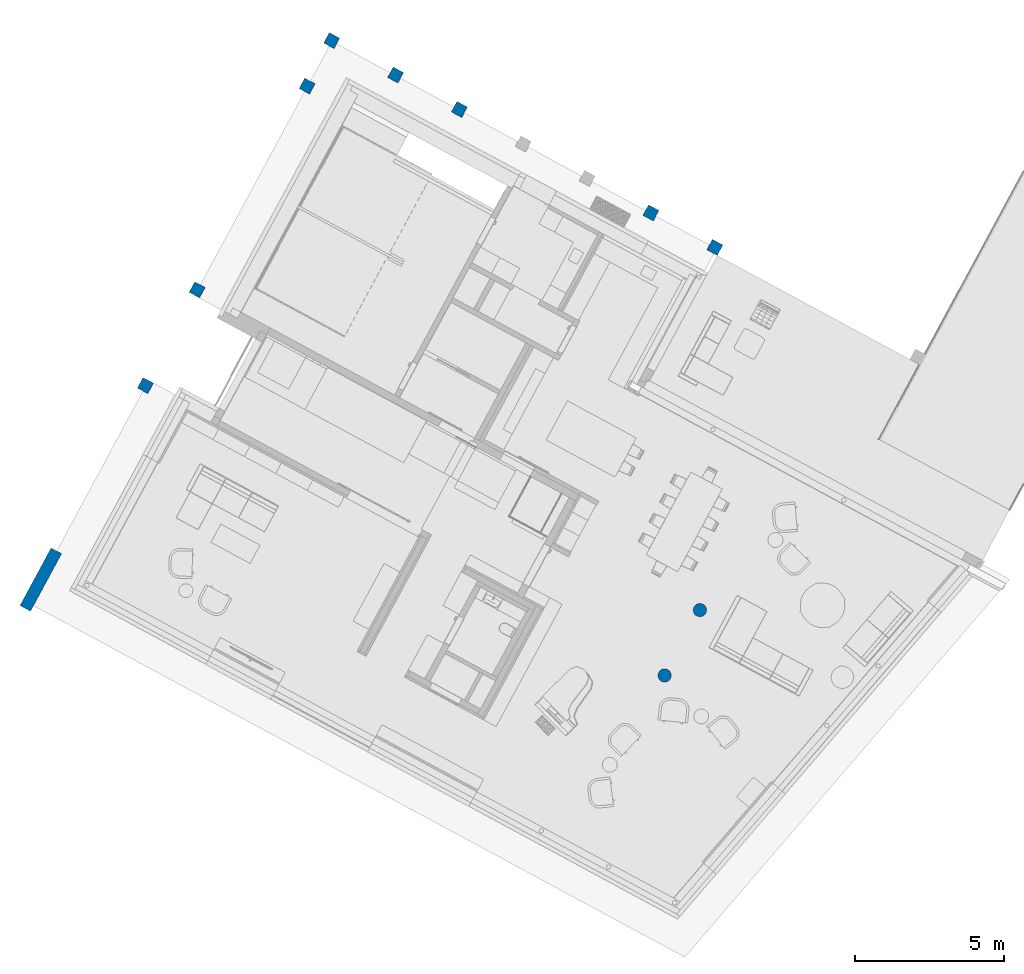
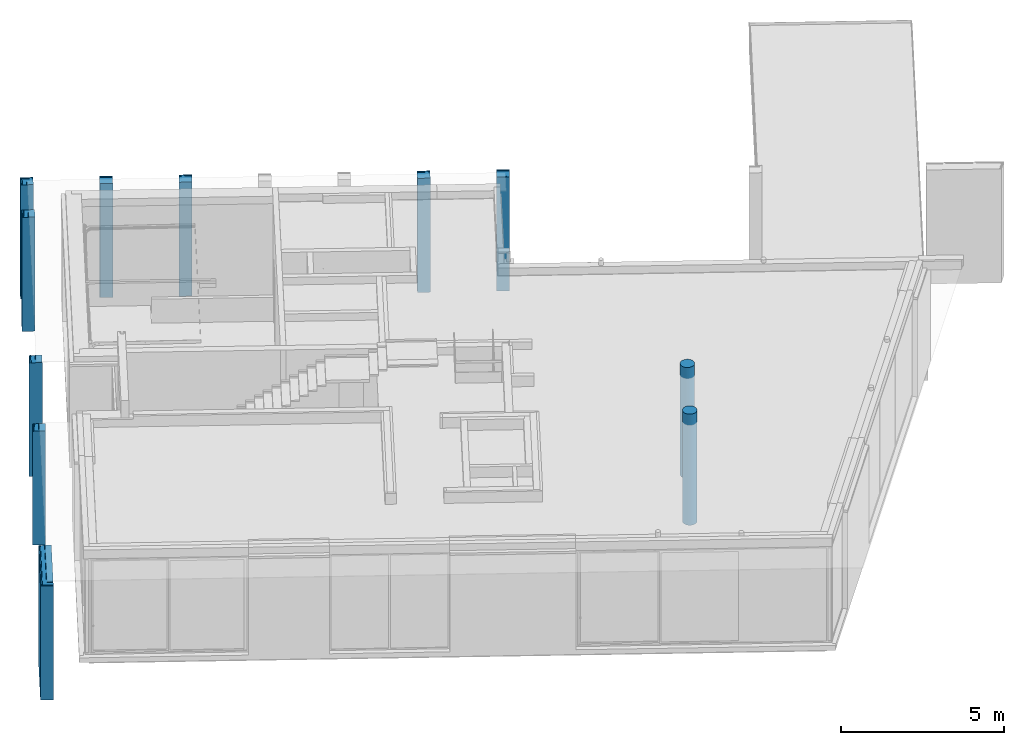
# One storey, part 1 of 52: 11 columns.
"""IFC2X3 building model written with IfcOpenShell, lengths in metres."""

from ifc_helpers import new_model, entity, si_unit, converted_unit, derived_unit, money_unit, direction, frame, origin_with_axes, place, context, subcontext, project, spatial, faceted_brep, material, type_object, element, save


model = new_model("IFC2X3")

# Units and contexts
model_context = context("Model", 3, precision=1e-05, world=origin_with_axes(), true_north=direction((0.0, 1.0)))
body_context = subcontext(model_context, "Body", "Model", "MODEL_VIEW")
ifc_project = project(units=[si_unit("LENGTHUNIT", "METRE"), si_unit("AREAUNIT", "SQUARE_METRE"), si_unit("VOLUMEUNIT", "CUBIC_METRE"), converted_unit("PLANEANGLEUNIT", "DEGREE", entity("IfcPlaneAngleMeasure", 0.0174532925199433), si_unit("PLANEANGLEUNIT", "RADIAN"), dimensions=[0, 0, 0, 0, 0, 0, 0]), money_unit("EUR"), converted_unit("TIMEUNIT", "Year", entity("IfcTimeMeasure", 31556926.0), si_unit("TIMEUNIT", "SECOND"), dimensions=[0, 0, 1, 0, 0, 0, 0]), si_unit("MASSUNIT", "GRAM", prefix="KILO"), si_unit("THERMODYNAMICTEMPERATUREUNIT", "DEGREE_CELSIUS"), si_unit("LUMINOUSINTENSITYUNIT", "LUMEN"), si_unit("ENERGYUNIT", "JOULE", prefix="MEGA"), derived_unit("THERMALCONDUCTANCEUNIT", [(si_unit("POWERUNIT", "WATT"), 1), (si_unit("LENGTHUNIT", "METRE"), -1), (si_unit("THERMODYNAMICTEMPERATUREUNIT", "KELVIN"), -1)]), derived_unit("SPECIFICHEATCAPACITYUNIT", [(si_unit("ENERGYUNIT", "JOULE"), 1), (si_unit("MASSUNIT", "GRAM", prefix="KILO"), -1), (si_unit("THERMODYNAMICTEMPERATUREUNIT", "KELVIN"), -1)]), derived_unit("MASSDENSITYUNIT", [(si_unit("MASSUNIT", "GRAM", prefix="KILO"), 1), (si_unit("VOLUMEUNIT", "CUBIC_METRE"), -1)])], contexts=[model_context])

# Site, building, storey
site_placement = place(None, frame((-3.949935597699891, 1.740105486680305, 0.0), z_axis=(0.0, 0.0, 1.0), x_axis=(0.8799804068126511, -0.475009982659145, 0.0)))
site = spatial("IfcSite", under=ifc_project, at=site_placement, Name="Gelände", CompositionType="ELEMENT")
building_placement = place(site_placement, origin_with_axes())
building = spatial("IfcBuilding", under=site, at=building_placement, Name="Gebäude", CompositionType="ELEMENT")
storey_placement = place(building_placement, origin_with_axes())
storey = spatial("IfcBuildingStorey", under=building, at=storey_placement, Name="Erdgeschoss", CompositionType="ELEMENT", Elevation=0.0)

# Columns
ifc_material_1 = material(Name="_SIWH - Beton, Stahlbeton")
column_type_1 = type_object("IfcColumnType", Name="_SIWH - Beton, Stahlbeton 400 x 400", PredefinedType="NOTDEFINED")
column_1_placement = place(storey_placement, frame((17.48247501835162, 20.38527610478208, -0.699999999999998), z_axis=(0.0, 0.0, 1.0), x_axis=(1.0, 0.0, 0.0)))
element("IfcColumn", 1, at=column_1_placement, inside=storey, type_object=column_type_1, material=ifc_material_1, Name="Stütze-003", context=body_context, shape_type="Brep", body=[
    faceted_brep([(-0.1999999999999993, 0.01000606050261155, 4.270000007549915), (0.0949931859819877, 0.0100060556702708, 4.270000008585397), (0.09499318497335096, -0.1899939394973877, 4.270000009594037), (0.1999999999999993, -0.1899939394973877, 4.270000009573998), (0.1999999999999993, 0.1350060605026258, 4.270000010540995), (-0.1999999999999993, 0.1350060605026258, 4.270000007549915), (-0.1999999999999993, 6.0605026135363e-06, 4.280000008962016), (0.08499319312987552, 6.062556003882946e-06, 4.280000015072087), (0.08499319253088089, -0.1999939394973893, 4.280000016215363), (0.1999999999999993, -0.1999939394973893, 4.280000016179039), (0.1999999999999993, -0.1999999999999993, 0.0), (0.1999999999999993, 0.1999999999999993, 0.0), (0.1999999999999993, 0.2000060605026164, 4.280000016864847), (0.1999999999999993, 0.1900060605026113, 4.270000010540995), (0.1999999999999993, 0.1650060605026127, 4.270000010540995), (0.1999999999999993, 0.1550060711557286, 4.279999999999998), (0.1999999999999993, 0.1450060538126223, 4.279999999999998), (-0.1999999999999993, 0.1450060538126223, 4.279999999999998), (-0.1999999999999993, 0.1650060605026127, 4.270000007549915), (-0.1999999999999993, 0.1900060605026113, 4.270000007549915), (-0.1999999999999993, 0.2000060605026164, 4.280000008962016), (-0.1999999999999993, 0.1999999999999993, 0.0), (-0.1999999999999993, -0.1999999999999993, 0.0), (-0.1999999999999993, -0.1999999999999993, 4.279999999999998), (-0.1999999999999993, 0.1550060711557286, 4.279999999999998)], [[[0, 1, 2, 3, 4, 5]], [[6, 7, 1, 0]], [[2, 1, 7, 8]], [[8, 9, 3, 2]], [[4, 3, 9, 10, 11, 12, 13, 14, 15, 16]], [[5, 4, 16, 17]], [[18, 19, 20, 21, 22, 23, 6, 0, 5, 17, 24]], [[23, 8, 7, 6]], [[10, 9, 8, 23, 22]], [[11, 10, 22, 21]], [[21, 20, 12, 11]], [[19, 13, 12, 20]], [[18, 14, 13, 19]], [[24, 15, 14, 18]], [[16, 15, 24, 17]]]),
])
column_2_placement = place(storey_placement, frame((2.837482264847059, 20.38527570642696, -0.699999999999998), z_axis=(0.0, 0.0, 1.0), x_axis=(1.0, 0.0, 0.0)))
element("IfcColumn", 2, at=column_2_placement, inside=storey, type_object=column_type_1, material=ifc_material_1, Name="Stütze-003", context=body_context, shape_type="Brep", body=[
    faceted_brep([(-0.2000000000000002, 0.1999999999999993, 0.0), (-0.2000000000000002, -0.1999999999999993, 0.0), (-0.2000000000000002, -0.1999999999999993, 4.279999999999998), (-0.1999923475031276, 0.1550064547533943, 4.280000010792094), (-0.2000000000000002, 0.1999999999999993, 4.279999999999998), (0.2000000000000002, -0.1999999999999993, 0.0), (0.2000000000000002, 0.1999999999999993, 0.0), (-0.189992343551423, -0.1999999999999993, 4.270000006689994), (0.2000000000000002, -0.1999999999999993, 4.279999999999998), (7.645823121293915e-06, -0.1999999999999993, 4.280000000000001), (-0.009992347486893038, -0.1999999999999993, 4.270000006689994), (-0.1349923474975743, -0.1999999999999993, 4.270000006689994), (-0.1449923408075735, -0.1999999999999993, 4.279999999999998), (-0.1549923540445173, -0.1999999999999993, 4.279999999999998), (-0.1649923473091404, -0.1999999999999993, 4.270000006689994), (-0.1899923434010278, 0.1650064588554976, 4.270000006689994), (-0.1899923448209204, 0.1900064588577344, 4.270000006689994), (0.2000000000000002, 0.1999999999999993, 4.279999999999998), (0.2000000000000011, 6.465535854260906e-06, 4.279999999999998), (0.2000000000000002, 0.1900064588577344, 4.270000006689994), (0.2000000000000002, 0.165006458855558, 4.270000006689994), (0.2000000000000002, 0.1550064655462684, 4.279999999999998), (0.2000000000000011, 0.145006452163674, 4.279999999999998), (0.2000000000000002, 0.1350064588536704, 4.270000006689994), (0.2000000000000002, 0.01000645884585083, 4.270000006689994), (7.652514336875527e-06, 6.458844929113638e-06, 4.280000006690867), (-0.00999234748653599, 0.01000645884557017, 4.270000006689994), (-0.1349923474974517, 0.01000645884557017, 4.270000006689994), (-0.134992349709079, 0.1350064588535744, 4.270000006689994), (-0.1449923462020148, 0.1450064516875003, 4.279999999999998), (-0.1549923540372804, 0.1550064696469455, 4.279999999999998), (-0.164992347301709, 0.1650064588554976, 4.270000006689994)], [[[0, 1, 2, 3, 4]], [[5, 1, 0, 6]], [[7, 2, 1, 5, 8, 9, 10, 11, 12, 13, 14]], [[3, 2, 7, 15, 16, 4]], [[6, 0, 4, 17]], [[18, 8, 5, 6, 17, 19, 20, 21, 22, 23, 24]], [[18, 25, 9, 8]], [[26, 10, 9, 25]], [[27, 11, 10, 26, 24, 23, 28]], [[29, 12, 11, 27, 28]], [[30, 13, 12, 29, 22, 21]], [[30, 31, 14, 13]], [[15, 7, 14, 31, 20, 19, 16]], [[17, 4, 16, 19]], [[20, 31, 30, 21]], [[22, 29, 28, 23]], [[24, 26, 25, 18]]]),
])
column_3_placement = place(storey_placement, frame((5.278314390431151, 20.38528753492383, -0.699999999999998), z_axis=(0.0, 0.0, 1.0), x_axis=(1.0, 0.0, 0.0)))
element("IfcColumn", 3, at=column_3_placement, inside=storey, type_object=column_type_1, material=ifc_material_1, Name="Stütze-003", context=body_context, shape_type="Brep", body=[
    faceted_brep([(0.2000000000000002, 0.1449946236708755, 4.279999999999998), (0.2000000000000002, 0.1549946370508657, 4.279999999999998), (-0.2000000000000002, 0.1549946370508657, 4.279999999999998), (-0.2000000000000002, 0.1449946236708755, 4.279999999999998), (0.2000000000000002, 0.1899946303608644, 4.270000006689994), (0.2000000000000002, 0.1649946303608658, 4.270000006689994), (0.2000000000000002, 0.1349946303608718, 4.270000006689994), (0.2000000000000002, 0.009994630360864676, 4.270000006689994), (0.2000000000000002, -5.369639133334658e-06, 4.27999999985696), (0.2000000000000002, -0.1999999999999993, 4.279999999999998), (0.2000000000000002, -0.1999999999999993, 0.0), (0.2000000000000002, 0.1999999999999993, 0.0), (0.200000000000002, 0.1999946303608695, 4.27999999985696), (-0.2000000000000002, 0.1649946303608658, 4.270000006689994), (-0.2000000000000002, 0.1899946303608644, 4.270000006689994), (-0.1999999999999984, 0.1999946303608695, 4.279999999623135), (-0.2000000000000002, 0.1999999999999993, 0.0), (-0.2000000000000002, -0.1999999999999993, 0.0), (-0.2000000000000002, -0.1999999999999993, 4.279999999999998), (-0.2000000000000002, -5.369639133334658e-06, 4.279999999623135), (-0.2000000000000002, 0.009994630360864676, 4.270000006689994), (-0.2000000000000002, 0.1349946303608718, 4.270000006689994)], [[[0, 1, 2, 3]], [[4, 5, 1, 0, 6, 7, 8, 9, 10, 11, 12]], [[2, 1, 5, 13]], [[13, 14, 15, 16, 17, 18, 19, 20, 21, 3, 2]], [[21, 6, 0, 3]], [[13, 5, 4, 14]], [[20, 7, 6, 21]], [[19, 8, 7, 20]], [[9, 8, 19, 18]], [[9, 18, 17, 10]], [[11, 10, 17, 16]], [[16, 15, 12, 11]], [[14, 4, 12, 15]]]),
])
column_4_placement = place(storey_placement, frame((2.837489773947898, 18.64471461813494, -0.699999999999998), z_axis=(0.0, 0.0, 1.0), x_axis=(1.0, 0.0, 0.0)))
element("IfcColumn", 4, at=column_4_placement, inside=storey, type_object=column_type_1, material=ifc_material_1, Name="Stütze-003", context=body_context, shape_type="Brep", body=[
    faceted_brep([(-0.1449998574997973, 0.1999999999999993, 4.280000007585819), (-0.1349998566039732, 0.1999999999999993, 4.270000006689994), (-0.00999985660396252, 0.1999999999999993, 4.270000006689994), (1.433960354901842e-07, 0.1999999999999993, 4.280000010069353), (0.2000000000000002, 0.1999999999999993, 4.280000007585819), (0.2000000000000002, 0.1999999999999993, 0.0), (-0.2000000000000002, 0.1999999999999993, 0.0), (-0.1999998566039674, 0.1999999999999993, 4.280000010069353), (-0.1899998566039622, 0.1999999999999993, 4.270000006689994), (-0.1649998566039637, 0.1999999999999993, 4.270000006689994), (-0.1549998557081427, 0.1999999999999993, 4.280000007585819), (-0.1349998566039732, -0.1999999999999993, 4.270000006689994), (-0.1449998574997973, -0.1999999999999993, 4.280000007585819), (-0.00999985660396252, -0.1999999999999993, 4.270000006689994), (1.433960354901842e-07, -0.1999999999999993, 4.280000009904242), (0.2000000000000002, -0.1999999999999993, 4.280000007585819), (0.2000000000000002, -0.1999999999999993, 0.0), (-0.2000000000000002, -0.1999999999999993, 0.0), (-0.1999998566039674, -0.1999999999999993, 4.280000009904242), (-0.1899998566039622, -0.1999999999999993, 4.270000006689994), (-0.1649998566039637, -0.1999999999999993, 4.270000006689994), (-0.1549998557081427, -0.1999999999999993, 4.280000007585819)], [[[0, 1, 2, 3, 4, 5, 6, 7, 8, 9, 10]], [[11, 1, 0, 12]], [[13, 2, 1, 11]], [[14, 3, 2, 13]], [[4, 3, 14, 15]], [[4, 15, 16, 5]], [[5, 16, 17, 6]], [[17, 18, 7, 6]], [[19, 8, 7, 18]], [[20, 9, 8, 19]], [[20, 21, 10, 9]], [[21, 12, 0, 10]], [[13, 11, 12, 21, 20, 19, 18, 17, 16, 15, 14]]]),
])
column_5_placement = place(storey_placement, frame((2.837482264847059, 7.193058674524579, -0.699999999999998), z_axis=(0.0, 0.0, 1.0), x_axis=(1.0, 0.0, 0.0)))
element("IfcColumn", 5, at=column_5_placement, inside=storey, type_object=column_type_1, material=ifc_material_1, Name="Stütze-003", context=body_context, shape_type="Brep", body=[
    faceted_brep([(-0.1449971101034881, 0.1999999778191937, 4.280000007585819), (-0.1349971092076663, 0.1999999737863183, 4.270000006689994), (-0.009997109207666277, 0.1999999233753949, 4.270000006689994), (2.890792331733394e-06, 0.1999999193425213, 4.280000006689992), (0.2000000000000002, 0.2000000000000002, 4.280000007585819), (0.2000000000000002, 0.2000000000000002, 0.0), (-0.2000000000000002, 0.2000000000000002, 0.0), (-0.1999971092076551, 0.2000000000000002, 4.280000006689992), (-0.18999710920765, 0.1999999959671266, 4.270000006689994), (-0.164997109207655, 0.1999999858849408, 4.270000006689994), (-0.1549971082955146, 0.1999999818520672, 4.280000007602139), (-0.134997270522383, -0.2000000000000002, 4.270000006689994), (-0.1449972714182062, -0.2000000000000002, 4.280000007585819), (-0.009997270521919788, -0.2000000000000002, 4.270000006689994), (2.729478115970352e-06, -0.1999999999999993, 4.280000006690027), (0.2000000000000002, -0.2000000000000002, 4.280000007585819), (0.2000000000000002, -0.2000000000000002, 0.0), (-0.2000000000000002, -0.2000000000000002, 0.0), (-0.199997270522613, -0.2000000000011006, 4.280000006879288), (-0.1899972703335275, -0.2000000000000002, 4.270000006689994), (-0.1649972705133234, -0.2000000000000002, 4.270000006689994), (-0.1549972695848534, -0.2000000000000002, 4.280000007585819)], [[[0, 1, 2, 3, 4, 5, 6, 7, 8, 9, 10]], [[11, 1, 0, 12]], [[13, 2, 1, 11]], [[14, 3, 2, 13]], [[4, 3, 14, 15]], [[4, 15, 16, 5]], [[5, 16, 17, 6]], [[17, 18, 7, 6]], [[19, 8, 7, 18]], [[20, 9, 8, 19]], [[20, 21, 10, 9]], [[21, 12, 0, 10]], [[13, 11, 12, 21, 20, 19, 18, 17, 16, 15, 14]]]),
])
column_6_placement = place(storey_placement, frame((7.719146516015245, 20.38528753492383, -0.699999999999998), z_axis=(0.0, 0.0, 1.0), x_axis=(1.0, 0.0, 0.0)))
element("IfcColumn", 6, at=column_6_placement, inside=storey, type_object=column_type_1, material=ifc_material_1, Name="Stütze-003", context=body_context, shape_type="Brep", body=[
    faceted_brep([(0.2000000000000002, 0.1449946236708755, 4.279999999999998), (0.2000000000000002, 0.1549946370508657, 4.279999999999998), (-0.2000000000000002, 0.1549946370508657, 4.279999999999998), (-0.2000000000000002, 0.1449946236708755, 4.279999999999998), (0.2000000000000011, 0.1899946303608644, 4.270000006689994), (0.2000000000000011, 0.1649946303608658, 4.270000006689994), (0.2000000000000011, 0.1349946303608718, 4.270000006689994), (0.2000000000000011, 0.009994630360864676, 4.270000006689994), (0.2000000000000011, -5.369639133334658e-06, 4.280000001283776), (0.2000000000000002, -0.1999999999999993, 4.279999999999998), (0.2000000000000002, -0.1999999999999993, 0.0), (0.2000000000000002, 0.1999999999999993, 0.0), (0.2000000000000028, 0.1999946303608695, 4.280000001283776), (-0.1999999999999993, 0.1649946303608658, 4.270000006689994), (-0.1999999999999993, 0.1899946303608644, 4.270000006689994), (-0.1999999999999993, 0.1999946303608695, 4.280000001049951), (-0.2000000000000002, 0.1999999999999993, 0.0), (-0.2000000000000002, -0.1999999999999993, 0.0), (-0.2000000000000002, -0.1999999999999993, 4.279999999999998), (-0.1999999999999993, -5.369639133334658e-06, 4.280000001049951), (-0.1999999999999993, 0.009994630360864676, 4.270000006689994), (-0.1999999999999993, 0.1349946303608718, 4.270000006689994)], [[[0, 1, 2, 3]], [[4, 5, 1, 0, 6, 7, 8, 9, 10, 11, 12]], [[2, 1, 5, 13]], [[13, 14, 15, 16, 17, 18, 19, 20, 21, 3, 2]], [[21, 6, 0, 3]], [[13, 5, 4, 14]], [[20, 7, 6, 21]], [[19, 8, 7, 20]], [[9, 8, 19, 18]], [[9, 18, 17, 10]], [[11, 10, 17, 16]], [[16, 15, 12, 11]], [[14, 4, 12, 15]]]),
])
column_7_placement = place(storey_placement, frame((15.04164289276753, 20.38528753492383, -0.699999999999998), z_axis=(0.0, 0.0, 1.0), x_axis=(1.0, 0.0, 0.0)))
element("IfcColumn", 7, at=column_7_placement, inside=storey, type_object=column_type_1, material=ifc_material_1, Name="Stütze-003", context=body_context, shape_type="Brep", body=[
    faceted_brep([(0.1999999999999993, 0.1449946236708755, 4.279999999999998), (0.1999999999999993, 0.1549946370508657, 4.279999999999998), (-0.1999999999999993, 0.1549946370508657, 4.279999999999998), (-0.1999999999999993, 0.1449946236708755, 4.279999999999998), (0.1999999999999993, 0.1899946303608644, 4.270000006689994), (0.1999999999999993, 0.1649946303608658, 4.270000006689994), (0.1999999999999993, 0.1349946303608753, 4.270000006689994), (0.1999999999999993, 0.009994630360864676, 4.270000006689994), (0.1999999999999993, -5.369639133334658e-06, 4.280000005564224), (0.1999999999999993, -0.1999999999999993, 4.279999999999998), (0.1999999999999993, -0.1999999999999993, 0.0), (0.1999999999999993, 0.1999999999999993, 0.0), (0.2000000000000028, 0.1999946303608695, 4.280000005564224), (-0.1999999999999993, 0.1649946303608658, 4.270000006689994), (-0.1999999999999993, 0.1899946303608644, 4.270000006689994), (-0.1999999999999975, 0.1999946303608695, 4.280000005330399), (-0.1999999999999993, 0.1999999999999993, 0.0), (-0.1999999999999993, -0.1999999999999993, 0.0), (-0.1999999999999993, -0.1999999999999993, 4.279999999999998), (-0.1999999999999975, -5.369639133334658e-06, 4.280000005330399), (-0.1999999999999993, 0.009994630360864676, 4.270000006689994), (-0.1999999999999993, 0.1349946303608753, 4.270000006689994)], [[[0, 1, 2, 3]], [[4, 5, 1, 0, 6, 7, 8, 9, 10, 11, 12]], [[2, 1, 5, 13]], [[13, 14, 15, 16, 17, 18, 19, 20, 21, 3, 2]], [[21, 6, 0, 3]], [[13, 5, 4, 14]], [[20, 7, 6, 21]], [[19, 8, 7, 20]], [[9, 8, 19, 18]], [[9, 18, 17, 10]], [[11, 10, 17, 16]], [[16, 15, 12, 11]], [[14, 4, 12, 15]]]),
])
column_8_placement = place(storey_placement, frame((2.837482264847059, 10.85779998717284, -0.699999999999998), z_axis=(0.0, 0.0, 1.0), x_axis=(-1.0, 0.0, 0.0)))
element("IfcColumn", 8, at=column_8_placement, inside=storey, type_object=column_type_1, material=ifc_material_1, Name="Stütze-003", context=body_context, shape_type="Brep", body=[
    faceted_brep([(0.144992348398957, -0.1999999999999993, 4.280000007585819), (0.1349923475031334, -0.1999999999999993, 4.270000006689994), (0.009992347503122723, -0.1999999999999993, 4.270000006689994), (-7.652496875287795e-06, -0.1999999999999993, 4.280000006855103), (-0.2000000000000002, -0.1999999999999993, 4.280000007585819), (-0.2000000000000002, -0.1999999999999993, 0.0), (0.1999999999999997, -0.1999999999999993, 0.0), (0.1999923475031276, -0.1999999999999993, 4.280000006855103), (0.1899923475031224, -0.1999999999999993, 4.270000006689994), (0.1649923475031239, -0.1999999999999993, 4.270000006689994), (0.1549923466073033, -0.1999999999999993, 4.280000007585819), (0.1349923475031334, 0.2000006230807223, 4.270000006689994), (0.144992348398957, 0.2000006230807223, 4.280000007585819), (0.009992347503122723, 0.2000006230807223, 4.270000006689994), (-7.652496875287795e-06, 0.2000006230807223, 4.280000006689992), (-0.1999999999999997, 0.1999999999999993, 4.280000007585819), (-0.1999999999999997, 0.1999999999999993, 0.0), (0.2000000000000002, 0.1999999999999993, 0.0), (0.1999923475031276, 0.2000006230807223, 4.280000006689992), (0.1899923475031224, 0.2000006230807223, 4.270000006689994), (0.1649923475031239, 0.2000006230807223, 4.270000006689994), (0.1549923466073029, 0.2000006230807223, 4.280000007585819)], [[[0, 1, 2, 3, 4, 5, 6, 7, 8, 9, 10]], [[11, 1, 0, 12]], [[13, 2, 1, 11]], [[14, 3, 2, 13]], [[4, 3, 14, 15]], [[4, 15, 16, 5]], [[5, 16, 17, 6]], [[17, 18, 7, 6]], [[19, 8, 7, 18]], [[20, 9, 8, 19]], [[20, 21, 10, 9]], [[21, 12, 0, 10]], [[13, 11, 12, 21, 20, 19, 18, 17, 16, 15, 14]]]),
])
column_type_2 = type_object("IfcColumnType", Name="_SIWH - Beton, Stahlbeton 400 x 2200", PredefinedType="NOTDEFINED")
column_9_placement = place(storey_placement, frame((2.837482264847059, -0.2200118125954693, -0.699999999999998), z_axis=(0.0, 0.0, 1.0), x_axis=(1.0, 0.0, 0.0)))
element("IfcColumn", 9, at=column_9_placement, inside=storey, type_object=column_type_2, material=ifc_material_1, Name="Stütze-003", context=body_context, shape_type="Brep", body=[
    faceted_brep([(0.2000000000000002, -1.04499999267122, 4.27999999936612), (-0.1450005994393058, -1.044999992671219, 4.27999999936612), (-0.1449997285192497, 1.1, 4.27999999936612), (-0.1549997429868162, 1.1, 4.27999999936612), (-0.155000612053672, -1.055000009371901, 4.279999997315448), (0.2000000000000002, -1.055000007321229, 4.27999999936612), (0.2000000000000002, -1.034999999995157, 4.270000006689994), (-0.1350005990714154, -1.034999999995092, 4.270000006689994), (-0.1350005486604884, -0.9099999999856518, 4.270000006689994), (-0.1349997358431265, 1.1, 4.270000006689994), (-0.009999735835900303, 1.1, 4.270000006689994), (2.641646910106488e-07, 1.1, 4.280000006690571), (0.2000000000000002, 1.1, 4.27999999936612), (0.2000000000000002, 1.1, 0.0), (-0.2000000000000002, 1.1, 0.0), (-0.1999997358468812, 1.099999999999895, 4.280000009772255), (-0.1899997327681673, 1.1, 4.270000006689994), (-0.1649997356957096, 1.100000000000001, 4.270000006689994), (-0.1650006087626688, -1.064999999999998, 4.270000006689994), (0.200000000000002, -1.064999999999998, 4.270000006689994), (0.2000000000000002, -0.9099999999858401, 4.270000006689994), (0.2000000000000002, -1.089999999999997, 4.270000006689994), (0.2000000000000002, -1.100000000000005, 4.279999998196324), (0.2000000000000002, -1.1, 0.0), (0.2000000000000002, -0.8999999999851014, 4.28000000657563), (-0.01000054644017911, -0.909999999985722, 4.270000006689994), (-5.424065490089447e-07, -0.8999999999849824, 4.280000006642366), (-0.2000000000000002, -1.1, 0.0), (-0.2000006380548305, -1.100000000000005, 4.279999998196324), (-0.2000006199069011, -1.055000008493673, 4.279999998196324), (-0.1900006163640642, -1.089999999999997, 4.270000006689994), (-0.1900006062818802, -1.064999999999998, 4.270000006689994)], [[[0, 1, 2, 3, 4, 5]], [[1, 0, 6, 7]], [[2, 1, 7, 8, 9]], [[3, 2, 9, 10, 11, 12, 13, 14, 15, 16, 17]], [[17, 18, 4, 3]], [[18, 19, 5, 4]], [[20, 6, 0, 5, 19, 21, 22, 23, 13, 12, 24]], [[9, 8, 7, 6, 20, 25, 10]], [[10, 25, 26, 11]], [[11, 26, 24, 12]], [[23, 27, 14, 13]], [[27, 28, 29, 15, 14]], [[15, 29, 28, 30, 31, 16]], [[16, 31, 30, 21, 19, 18, 17]], [[28, 22, 21, 30]], [[23, 22, 28, 27]], [[25, 20, 24, 26]]]),
])
ifc_material_2 = material(Name="Beton, Stahlbeton C30/35")
column_type_3 = type_object("IfcColumnType", Name="Beton, Stahlbeton C30/35 D450", PredefinedType="NOTDEFINED")
column_10_placement = place(storey_placement, frame((22.83697549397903, 9.410553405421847, -0.1499999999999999), z_axis=(0.0, 0.0, 1.0), x_axis=(1.0, 0.0, 0.0)))
element("IfcColumn", 10, at=column_10_placement, inside=storey, type_object=column_type_3, material=ifc_material_2, Name="Stütze-003", context=body_context, shape_type="Brep", body=[
    faceted_brep([(-0.2250000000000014, 0.0, 4.170000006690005), (-0.2250000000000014, 0.0, 0.0), (-0.2215817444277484, -0.039070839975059, 0.0), (-0.2215817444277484, -0.039070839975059, 4.170000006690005), (-0.2215817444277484, 0.039070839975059, 4.170000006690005), (-0.2215817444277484, 0.039070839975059, 0.0), (-0.2114308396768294, 0.07695453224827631, 0.0), (-0.1948557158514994, 0.1125000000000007, 0.0), (-0.1723599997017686, 0.1446272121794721, 0.0), (-0.1446272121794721, 0.1723599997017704, 0.0), (-0.1125000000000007, 0.1948557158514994, 0.0), (-0.07695453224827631, 0.2114308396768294, 0.0), (-0.03907083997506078, 0.2215817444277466, 0.0), (0.0, 0.2249999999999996, 0.0), (0.03907083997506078, 0.2215817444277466, 0.0), (0.07695453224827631, 0.2114308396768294, 0.0), (0.1125000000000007, 0.1948557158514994, 0.0), (0.1446272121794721, 0.1723599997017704, 0.0), (0.1723599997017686, 0.1446272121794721, 0.0), (0.1948557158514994, 0.1125000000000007, 0.0), (0.2114308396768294, 0.07695453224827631, 0.0), (0.2215817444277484, 0.039070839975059, 0.0), (0.2250000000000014, 0.0, 0.0), (0.2215817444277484, -0.039070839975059, 0.0), (0.2114308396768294, -0.07695453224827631, 0.0), (0.1948557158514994, -0.1125000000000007, 0.0), (0.1723599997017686, -0.1446272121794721, 0.0), (0.1446272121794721, -0.1723599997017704, 0.0), (0.1125000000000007, -0.1948557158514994, 0.0), (0.07695453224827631, -0.2114308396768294, 0.0), (0.03907083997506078, -0.2215817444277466, 0.0), (0.0, -0.2249999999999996, 0.0), (-0.03907083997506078, -0.2215817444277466, 0.0), (-0.07695453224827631, -0.2114308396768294, 0.0), (-0.1125000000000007, -0.1948557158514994, 0.0), (-0.1446272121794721, -0.1723599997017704, 0.0), (-0.1723599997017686, -0.1446272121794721, 0.0), (-0.1948557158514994, -0.1125000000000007, 0.0), (-0.2114308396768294, -0.07695453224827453, 0.0), (-0.2114308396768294, -0.07695453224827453, 4.170000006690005), (-0.1948557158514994, -0.1125000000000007, 4.170000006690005), (-0.1723599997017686, -0.1446272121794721, 4.170000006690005), (-0.1446272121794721, -0.1723599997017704, 4.170000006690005), (-0.1125000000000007, -0.1948557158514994, 4.170000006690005), (-0.07695453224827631, -0.2114308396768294, 4.170000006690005), (-0.03907083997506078, -0.2215817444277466, 4.170000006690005), (0.0, -0.2249999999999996, 4.170000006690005), (0.03907083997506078, -0.2215817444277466, 4.170000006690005), (0.07695453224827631, -0.2114308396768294, 4.170000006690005), (0.1125000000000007, -0.1948557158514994, 4.170000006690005), (0.1446272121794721, -0.1723599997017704, 4.170000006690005), (0.1723599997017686, -0.1446272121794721, 4.170000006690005), (0.1948557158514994, -0.1125000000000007, 4.170000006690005), (0.2114308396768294, -0.07695453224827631, 4.170000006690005), (0.2215817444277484, -0.039070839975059, 4.170000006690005), (0.2250000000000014, 0.0, 4.170000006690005), (0.2215817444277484, 0.039070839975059, 4.170000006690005), (0.2114308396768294, 0.07695453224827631, 4.170000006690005), (0.1948557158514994, 0.1125000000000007, 4.170000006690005), (0.1723599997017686, 0.1446272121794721, 4.170000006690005), (0.1446272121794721, 0.1723599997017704, 4.170000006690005), (0.1125000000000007, 0.1948557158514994, 4.170000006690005), (0.07695453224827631, 0.2114308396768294, 4.170000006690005), (0.03907083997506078, 0.2215817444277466, 4.170000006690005), (0.0, 0.2249999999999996, 4.170000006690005), (-0.03907083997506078, 0.2215817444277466, 4.170000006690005), (-0.07695453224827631, 0.2114308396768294, 4.170000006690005), (-0.1125000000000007, 0.1948557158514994, 4.170000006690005), (-0.1446272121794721, 0.1723599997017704, 4.170000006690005), (-0.1723599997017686, 0.1446272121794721, 4.170000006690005), (-0.1948557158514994, 0.1125000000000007, 4.170000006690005), (-0.2114308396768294, 0.07695453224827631, 4.170000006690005)], [[[0, 1, 2, 3]], [[4, 5, 1, 0]], [[2, 1, 5, 6, 7, 8, 9, 10, 11, 12, 13, 14, 15, 16, 17, 18, 19, 20, 21, 22, 23, 24, 25, 26, 27, 28, 29, 30, 31, 32, 33, 34, 35, 36, 37, 38]], [[3, 2, 38, 39]], [[4, 0, 3, 39, 40, 41, 42, 43, 44, 45, 46, 47, 48, 49, 50, 51, 52, 53, 54, 55, 56, 57, 58, 59, 60, 61, 62, 63, 64, 65, 66, 67, 68, 69, 70, 71]], [[71, 6, 5, 4]], [[70, 7, 6, 71]], [[69, 8, 7, 70]], [[68, 9, 8, 69]], [[67, 10, 9, 68]], [[66, 11, 10, 67]], [[65, 12, 11, 66]], [[64, 13, 12, 65]], [[63, 14, 13, 64]], [[62, 15, 14, 63]], [[61, 16, 15, 62]], [[60, 17, 16, 61]], [[59, 18, 17, 60]], [[58, 19, 18, 59]], [[57, 20, 19, 58]], [[56, 21, 20, 57]], [[55, 22, 21, 56]], [[54, 23, 22, 55]], [[53, 24, 23, 54]], [[52, 25, 24, 53]], [[51, 26, 25, 52]], [[50, 27, 26, 51]], [[49, 28, 27, 50]], [[48, 29, 28, 49]], [[47, 30, 29, 48]], [[46, 31, 30, 47]], [[45, 32, 31, 46]], [[44, 33, 32, 45]], [[43, 34, 33, 44]], [[42, 35, 34, 43]], [[41, 36, 35, 42]], [[40, 37, 36, 41]], [[39, 38, 37, 40]]]),
])
column_11_placement = place(storey_placement, frame((22.83697549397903, 6.910553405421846, -0.1499999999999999), z_axis=(0.0, 0.0, 1.0), x_axis=(1.0, 0.0, 0.0)))
element("IfcColumn", 11, at=column_11_placement, inside=storey, type_object=column_type_3, material=ifc_material_2, Name="Stütze-003", context=body_context, shape_type="Brep", body=[
    faceted_brep([(-0.2250000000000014, 0.0, 4.170000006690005), (-0.2250000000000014, 0.0, 0.0), (-0.2215817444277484, -0.039070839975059, 0.0), (-0.2215817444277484, -0.039070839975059, 4.170000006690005), (-0.2215817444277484, 0.039070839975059, 4.170000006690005), (-0.2215817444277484, 0.039070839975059, 0.0), (-0.2114308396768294, 0.07695453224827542, 0.0), (-0.1948557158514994, 0.1124999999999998, 0.0), (-0.1723599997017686, 0.1446272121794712, 0.0), (-0.1446272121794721, 0.1723599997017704, 0.0), (-0.1125000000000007, 0.1948557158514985, 0.0), (-0.07695453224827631, 0.2114308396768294, 0.0), (-0.03907083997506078, 0.2215817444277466, 0.0), (0.0, 0.2249999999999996, 0.0), (0.03907083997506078, 0.2215817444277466, 0.0), (0.07695453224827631, 0.2114308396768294, 0.0), (0.1125000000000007, 0.1948557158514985, 0.0), (0.1446272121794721, 0.1723599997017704, 0.0), (0.1723599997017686, 0.1446272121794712, 0.0), (0.1948557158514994, 0.1124999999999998, 0.0), (0.2114308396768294, 0.07695453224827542, 0.0), (0.2215817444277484, 0.039070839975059, 0.0), (0.2250000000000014, 0.0, 0.0), (0.2215817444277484, -0.039070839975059, 0.0), (0.2114308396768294, -0.07695453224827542, 0.0), (0.1948557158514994, -0.1124999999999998, 0.0), (0.1723599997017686, -0.1446272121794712, 0.0), (0.1446272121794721, -0.1723599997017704, 0.0), (0.1125000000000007, -0.1948557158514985, 0.0), (0.07695453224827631, -0.2114308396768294, 0.0), (0.03907083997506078, -0.2215817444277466, 0.0), (0.0, -0.2249999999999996, 0.0), (-0.03907083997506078, -0.2215817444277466, 0.0), (-0.07695453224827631, -0.2114308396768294, 0.0), (-0.1125000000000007, -0.1948557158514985, 0.0), (-0.1446272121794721, -0.1723599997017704, 0.0), (-0.1723599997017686, -0.1446272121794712, 0.0), (-0.1948557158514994, -0.1124999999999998, 0.0), (-0.2114308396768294, -0.07695453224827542, 0.0), (-0.2114308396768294, -0.07695453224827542, 4.170000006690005), (-0.1948557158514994, -0.1124999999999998, 4.170000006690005), (-0.1723599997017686, -0.1446272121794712, 4.170000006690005), (-0.1446272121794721, -0.1723599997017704, 4.170000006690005), (-0.1125000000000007, -0.1948557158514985, 4.170000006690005), (-0.07695453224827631, -0.2114308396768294, 4.170000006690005), (-0.03907083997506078, -0.2215817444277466, 4.170000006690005), (0.0, -0.2249999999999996, 4.170000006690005), (0.03907083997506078, -0.2215817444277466, 4.170000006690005), (0.07695453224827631, -0.2114308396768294, 4.170000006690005), (0.1125000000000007, -0.1948557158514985, 4.170000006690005), (0.1446272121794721, -0.1723599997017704, 4.170000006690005), (0.1723599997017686, -0.1446272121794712, 4.170000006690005), (0.1948557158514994, -0.1124999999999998, 4.170000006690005), (0.2114308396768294, -0.07695453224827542, 4.170000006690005), (0.2215817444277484, -0.039070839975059, 4.170000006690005), (0.2250000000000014, 0.0, 4.170000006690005), (0.2215817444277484, 0.039070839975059, 4.170000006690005), (0.2114308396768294, 0.07695453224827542, 4.170000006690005), (0.1948557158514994, 0.1124999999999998, 4.170000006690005), (0.1723599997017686, 0.1446272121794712, 4.170000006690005), (0.1446272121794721, 0.1723599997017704, 4.170000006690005), (0.1125000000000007, 0.1948557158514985, 4.170000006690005), (0.07695453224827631, 0.2114308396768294, 4.170000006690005), (0.03907083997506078, 0.2215817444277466, 4.170000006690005), (0.0, 0.2249999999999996, 4.170000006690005), (-0.03907083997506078, 0.2215817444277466, 4.170000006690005), (-0.07695453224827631, 0.2114308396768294, 4.170000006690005), (-0.1125000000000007, 0.1948557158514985, 4.170000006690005), (-0.1446272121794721, 0.1723599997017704, 4.170000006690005), (-0.1723599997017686, 0.1446272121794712, 4.170000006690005), (-0.1948557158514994, 0.1124999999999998, 4.170000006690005), (-0.2114308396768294, 0.07695453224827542, 4.170000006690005)], [[[0, 1, 2, 3]], [[4, 5, 1, 0]], [[2, 1, 5, 6, 7, 8, 9, 10, 11, 12, 13, 14, 15, 16, 17, 18, 19, 20, 21, 22, 23, 24, 25, 26, 27, 28, 29, 30, 31, 32, 33, 34, 35, 36, 37, 38]], [[3, 2, 38, 39]], [[4, 0, 3, 39, 40, 41, 42, 43, 44, 45, 46, 47, 48, 49, 50, 51, 52, 53, 54, 55, 56, 57, 58, 59, 60, 61, 62, 63, 64, 65, 66, 67, 68, 69, 70, 71]], [[71, 6, 5, 4]], [[70, 7, 6, 71]], [[69, 8, 7, 70]], [[68, 9, 8, 69]], [[67, 10, 9, 68]], [[66, 11, 10, 67]], [[65, 12, 11, 66]], [[64, 13, 12, 65]], [[63, 14, 13, 64]], [[62, 15, 14, 63]], [[61, 16, 15, 62]], [[60, 17, 16, 61]], [[59, 18, 17, 60]], [[58, 19, 18, 59]], [[57, 20, 19, 58]], [[56, 21, 20, 57]], [[55, 22, 21, 56]], [[54, 23, 22, 55]], [[53, 24, 23, 54]], [[52, 25, 24, 53]], [[51, 26, 25, 52]], [[50, 27, 26, 51]], [[49, 28, 27, 50]], [[48, 29, 28, 49]], [[47, 30, 29, 48]], [[46, 31, 30, 47]], [[45, 32, 31, 46]], [[44, 33, 32, 45]], [[43, 34, 33, 44]], [[42, 35, 34, 43]], [[41, 36, 35, 42]], [[40, 37, 36, 41]], [[39, 38, 37, 40]]]),
])

save(model, "model.ifc")
